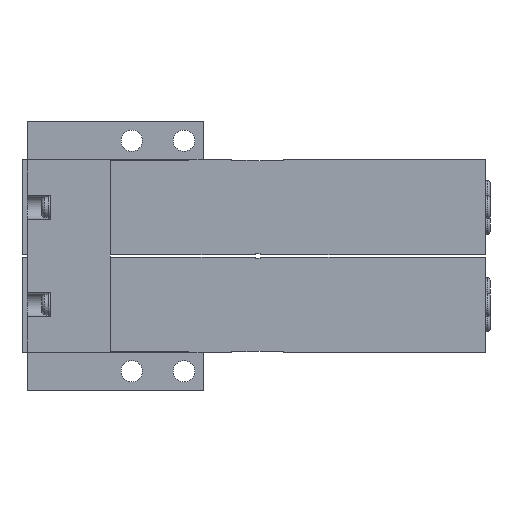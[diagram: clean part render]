
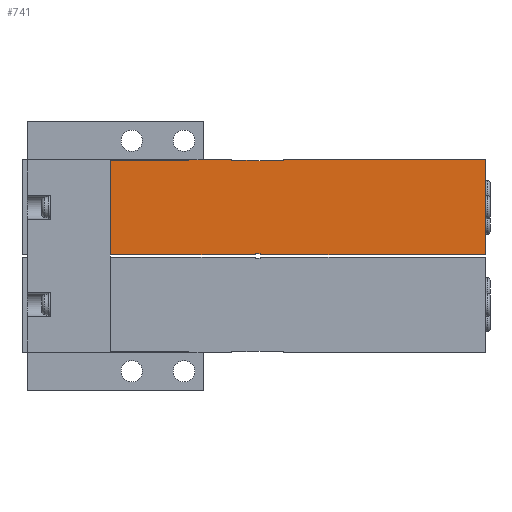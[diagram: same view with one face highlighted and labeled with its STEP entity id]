
A CAD part, front view. The second image highlights one B-rep face of the part: STEP entity #741.
In plain terms, the highlighted planar face has unit normal (0, -1, 0).
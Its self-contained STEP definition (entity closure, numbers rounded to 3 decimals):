
#741=ADVANCED_FACE('',(#2314),#2315,.F.);
#2314=FACE_OUTER_BOUND('',#5056,.T.);
#2315=PLANE('',#5057);
#5056=EDGE_LOOP('',(#9835,#9836,#9837,#9838,#9839,#9840,#9841,#9842,#9843,#9844,#9845,#9846,#9847,#9848,#9849,#9850,#9851,#9852,#9853,#9854,#9855,#9856,#9857,#9858));
#5057=AXIS2_PLACEMENT_3D('',#9859,#9860,#9861);
#9835=ORIENTED_EDGE('',*,*,#17522,.F.);
#9836=ORIENTED_EDGE('',*,*,#17558,.T.);
#9837=ORIENTED_EDGE('',*,*,#17528,.T.);
#9838=ORIENTED_EDGE('',*,*,#17552,.F.);
#9839=ORIENTED_EDGE('',*,*,#17436,.F.);
#9840=ORIENTED_EDGE('',*,*,#17520,.T.);
#9841=ORIENTED_EDGE('',*,*,#17587,.F.);
#9842=ORIENTED_EDGE('',*,*,#17578,.T.);
#9843=ORIENTED_EDGE('',*,*,#17607,.F.);
#9844=ORIENTED_EDGE('',*,*,#17462,.T.);
#9845=ORIENTED_EDGE('',*,*,#17500,.T.);
#9846=ORIENTED_EDGE('',*,*,#17575,.T.);
#9847=ORIENTED_EDGE('',*,*,#17440,.T.);
#9848=ORIENTED_EDGE('',*,*,#17597,.F.);
#9849=ORIENTED_EDGE('',*,*,#17426,.T.);
#9850=ORIENTED_EDGE('',*,*,#17554,.F.);
#9851=ORIENTED_EDGE('',*,*,#17492,.T.);
#9852=ORIENTED_EDGE('',*,*,#17556,.T.);
#9853=ORIENTED_EDGE('',*,*,#17467,.T.);
#9854=ORIENTED_EDGE('',*,*,#17422,.T.);
#9855=ORIENTED_EDGE('',*,*,#17385,.T.);
#9856=ORIENTED_EDGE('',*,*,#17596,.F.);
#9857=ORIENTED_EDGE('',*,*,#17512,.F.);
#9858=ORIENTED_EDGE('',*,*,#17567,.F.);
#9859=CARTESIAN_POINT('',(18.6,0.0,10.0));
#9860=DIRECTION('',(-0.0,1.0,0.0));
#9861=DIRECTION('',(1.0,0.0,0.0));
#17385=EDGE_CURVE('',#21136,#21149,#21151,.T.);
#17422=EDGE_CURVE('',#21218,#21136,#21219,.T.);
#17426=EDGE_CURVE('',#21225,#21223,#21226,.T.);
#17436=EDGE_CURVE('',#21240,#21242,#21243,.T.);
#17440=EDGE_CURVE('',#21249,#21247,#21250,.T.);
#17462=EDGE_CURVE('',#21286,#21284,#21287,.T.);
#17467=EDGE_CURVE('',#21294,#21218,#21295,.T.);
#17492=EDGE_CURVE('',#21328,#21333,#21335,.T.);
#17500=EDGE_CURVE('',#21284,#21346,#21348,.T.);
#17512=EDGE_CURVE('',#21364,#21367,#21368,.T.);
#17520=EDGE_CURVE('',#21240,#21379,#21381,.T.);
#17522=EDGE_CURVE('',#21382,#21384,#21385,.T.);
#17528=EDGE_CURVE('',#21390,#21394,#21396,.T.);
#17552=EDGE_CURVE('',#21242,#21394,#21431,.T.);
#17554=EDGE_CURVE('',#21328,#21223,#21433,.T.);
#17556=EDGE_CURVE('',#21333,#21294,#21435,.T.);
#17558=EDGE_CURVE('',#21382,#21390,#21437,.T.);
#17567=EDGE_CURVE('',#21384,#21364,#21450,.T.);
#17575=EDGE_CURVE('',#21346,#21249,#21459,.T.);
#17578=EDGE_CURVE('',#21465,#21463,#21466,.T.);
#17587=EDGE_CURVE('',#21465,#21379,#21477,.T.);
#17596=EDGE_CURVE('',#21367,#21149,#21487,.T.);
#17597=EDGE_CURVE('',#21225,#21247,#21488,.T.);
#17607=EDGE_CURVE('',#21286,#21463,#21498,.T.);
#21136=VERTEX_POINT('',#26882);
#21149=VERTEX_POINT('',#26901);
#21151=LINE('',#26904,#26905);
#21218=VERTEX_POINT('',#26999);
#21219=LINE('',#27000,#27001);
#21223=VERTEX_POINT('',#27007);
#21225=VERTEX_POINT('',#27010);
#21226=LINE('',#27011,#27012);
#21240=VERTEX_POINT('',#27034);
#21242=VERTEX_POINT('',#27037);
#21243=LINE('',#27038,#27039);
#21247=VERTEX_POINT('',#27045);
#21249=VERTEX_POINT('',#27048);
#21250=LINE('',#27049,#27050);
#21284=VERTEX_POINT('',#27102);
#21286=VERTEX_POINT('',#27105);
#21287=LINE('',#27106,#27107);
#21294=VERTEX_POINT('',#27118);
#21295=LINE('',#27119,#27120);
#21328=VERTEX_POINT('',#27173);
#21333=VERTEX_POINT('',#27180);
#21335=LINE('',#27183,#27184);
#21346=VERTEX_POINT('',#27201);
#21348=LINE('',#27204,#27205);
#21364=VERTEX_POINT('',#27229);
#21367=VERTEX_POINT('',#27233);
#21368=LINE('',#27234,#27235);
#21379=VERTEX_POINT('',#27252);
#21381=LINE('',#27255,#27256);
#21382=VERTEX_POINT('',#27257);
#21384=VERTEX_POINT('',#27260);
#21385=LINE('',#27261,#27262);
#21390=VERTEX_POINT('',#27269);
#21394=VERTEX_POINT('',#27275);
#21396=LINE('',#27278,#27279);
#21431=LINE('',#27336,#27337);
#21433=LINE('',#27340,#27341);
#21435=LINE('',#27344,#27345);
#21437=LINE('',#27348,#27349);
#21450=LINE('',#27369,#27370);
#21459=LINE('',#27385,#27386);
#21463=VERTEX_POINT('',#27391);
#21465=VERTEX_POINT('',#27394);
#21466=LINE('',#27395,#27396);
#21477=LINE('',#27414,#27415);
#21487=LINE('',#27432,#27433);
#21488=LINE('',#27434,#27435);
#21498=LINE('',#27454,#27455);
#26882=CARTESIAN_POINT('',(55.1,0.0,-10.0));
#26901=CARTESIAN_POINT('',(97.6,0.0,-10.0));
#26904=CARTESIAN_POINT('',(18.6,0.0,-10.0));
#26905=VECTOR('',#33798,1.0);
#26999=CARTESIAN_POINT('',(55.1,0.0,-9.9));
#27000=CARTESIAN_POINT('',(55.1,0.0,-9.9));
#27001=VECTOR('',#33853,1.0);
#27007=CARTESIAN_POINT('',(49.1,0.0,-9.9));
#27010=CARTESIAN_POINT('',(44.1,0.0,-9.9));
#27011=CARTESIAN_POINT('',(44.1,0.0,-9.9));
#27012=VECTOR('',#33857,1.0);
#27034=CARTESIAN_POINT('',(44.1,0.0,9.9));
#27037=CARTESIAN_POINT('',(49.1,0.0,9.9));
#27038=CARTESIAN_POINT('',(44.1,0.0,9.9));
#27039=VECTOR('',#33867,1.0);
#27045=CARTESIAN_POINT('',(44.1,0.0,-10.0));
#27048=CARTESIAN_POINT('',(35.1,0.0,-10.0));
#27049=CARTESIAN_POINT('',(18.6,0.0,-10.0));
#27050=VECTOR('',#33871,1.0);
#27102=CARTESIAN_POINT('',(18.6,0.0,-9.9));
#27105=CARTESIAN_POINT('',(18.6,0.0,9.9));
#27106=CARTESIAN_POINT('',(18.6,0.0,10.0));
#27107=VECTOR('',#33897,1.0);
#27118=CARTESIAN_POINT('',(50.1,0.0,-9.9));
#27119=CARTESIAN_POINT('',(44.1,0.0,-9.9));
#27120=VECTOR('',#33902,1.0);
#27173=CARTESIAN_POINT('',(49.1,0.0,-9.8));
#27180=CARTESIAN_POINT('',(50.1,0.0,-9.8));
#27183=CARTESIAN_POINT('',(18.6,0.0,-9.8));
#27184=VECTOR('',#33929,1.0);
#27201=CARTESIAN_POINT('',(35.1,0.0,-9.9));
#27204=CARTESIAN_POINT('',(18.6,0.0,-9.9));
#27205=VECTOR('',#33937,1.0);
#27229=CARTESIAN_POINT('',(55.1,0.0,10.0));
#27233=CARTESIAN_POINT('',(97.6,0.0,10.0));
#27234=CARTESIAN_POINT('',(18.6,0.0,10.0));
#27235=VECTOR('',#33953,1.0);
#27252=CARTESIAN_POINT('',(44.1,0.0,10.0));
#27255=CARTESIAN_POINT('',(44.1,0.0,9.9));
#27256=VECTOR('',#33961,1.0);
#27257=CARTESIAN_POINT('',(50.1,0.0,9.9));
#27260=CARTESIAN_POINT('',(55.1,0.0,9.9));
#27261=CARTESIAN_POINT('',(44.1,0.0,9.9));
#27262=VECTOR('',#33963,1.0);
#27269=CARTESIAN_POINT('',(50.1,0.0,9.8));
#27275=CARTESIAN_POINT('',(49.1,0.0,9.8));
#27278=CARTESIAN_POINT('',(18.6,0.0,9.8));
#27279=VECTOR('',#33969,1.0);
#27336=CARTESIAN_POINT('',(49.1,0.0,10.0));
#27337=VECTOR('',#33995,1.0);
#27340=CARTESIAN_POINT('',(49.1,0.0,10.0));
#27341=VECTOR('',#33997,1.0);
#27344=CARTESIAN_POINT('',(50.1,0.0,10.0));
#27345=VECTOR('',#33999,1.0);
#27348=CARTESIAN_POINT('',(50.1,0.0,10.0));
#27349=VECTOR('',#34001,1.0);
#27369=CARTESIAN_POINT('',(55.1,0.0,9.9));
#27370=VECTOR('',#34012,1.0);
#27385=CARTESIAN_POINT('',(35.1,0.0,-9.9));
#27386=VECTOR('',#34022,1.0);
#27391=CARTESIAN_POINT('',(35.1,0.0,9.9));
#27394=CARTESIAN_POINT('',(35.1,0.0,10.0));
#27395=CARTESIAN_POINT('',(35.1,0.0,10.1));
#27396=VECTOR('',#34025,1.0);
#27414=CARTESIAN_POINT('',(18.6,0.0,10.0));
#27415=VECTOR('',#34036,1.0);
#27432=CARTESIAN_POINT('',(97.6,0.0,10.0));
#27433=VECTOR('',#34047,1.0);
#27434=CARTESIAN_POINT('',(44.1,0.0,-9.9));
#27435=VECTOR('',#34048,1.0);
#27454=CARTESIAN_POINT('',(18.6,0.0,9.9));
#27455=VECTOR('',#34058,1.0);
#33798=DIRECTION('',(1.0,0.0,0.0));
#33853=DIRECTION('',(0.0,0.0,-1.0));
#33857=DIRECTION('',(1.0,0.0,0.0));
#33867=DIRECTION('',(1.0,0.0,0.0));
#33871=DIRECTION('',(1.0,0.0,0.0));
#33897=DIRECTION('',(0.0,0.0,-1.0));
#33902=DIRECTION('',(1.0,0.0,0.0));
#33929=DIRECTION('',(1.0,0.0,0.0));
#33937=DIRECTION('',(1.0,0.0,0.0));
#33953=DIRECTION('',(1.0,0.0,0.0));
#33961=DIRECTION('',(0.0,0.0,1.0));
#33963=DIRECTION('',(1.0,0.0,0.0));
#33969=DIRECTION('',(-1.0,0.0,0.0));
#33995=DIRECTION('',(0.0,0.0,-1.0));
#33997=DIRECTION('',(0.0,0.0,-1.0));
#33999=DIRECTION('',(0.0,0.0,-1.0));
#34001=DIRECTION('',(0.0,0.0,-1.0));
#34012=DIRECTION('',(0.0,0.0,1.0));
#34022=DIRECTION('',(0.0,0.0,-1.0));
#34025=DIRECTION('',(0.0,0.0,-1.0));
#34036=DIRECTION('',(1.0,0.0,0.0));
#34047=DIRECTION('',(0.0,0.0,-1.0));
#34048=DIRECTION('',(0.0,0.0,-1.0));
#34058=DIRECTION('',(1.0,0.0,0.0));
